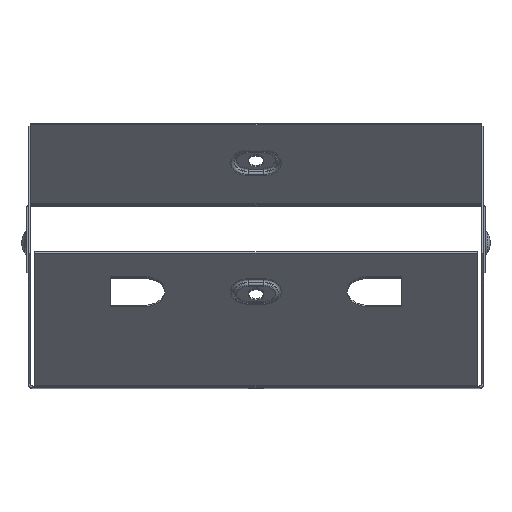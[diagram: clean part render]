
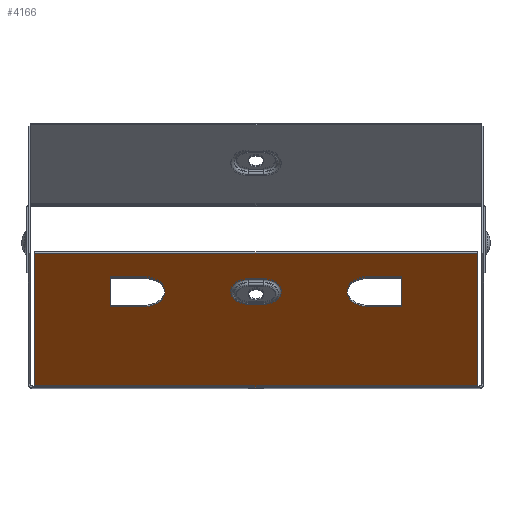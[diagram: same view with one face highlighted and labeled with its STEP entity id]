
A CAD part, top view. The second image highlights one B-rep face of the part: STEP entity #4166.
In plain terms, the highlighted planar face has unit normal (0, -0.707, 0.707).
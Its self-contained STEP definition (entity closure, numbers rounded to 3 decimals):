
#57 = EDGE_CURVE ( 'NONE', #10825, #4045, #3993, .T. ) ;
#126 = CARTESIAN_POINT ( 'NONE',  ( -97.299, -80.273, 96.527 ) ) ;
#152 = DIRECTION ( 'NONE',  ( 1., 0., 0. ) ) ;
#174 = AXIS2_PLACEMENT_3D ( 'NONE', #10945, #14334, #14380 ) ;
#208 = LINE ( 'NONE', #5179, #12270 ) ;
#489 = DIRECTION ( 'NONE',  ( -1., 0., 0. ) ) ;
#516 = EDGE_CURVE ( 'NONE', #4045, #14564, #5368, .T. ) ;
#530 = ORIENTED_EDGE ( 'NONE', *, *, #1739, .T. ) ;
#569 = VECTOR ( 'NONE', #7218, 1000. ) ;
#830 = DIRECTION ( 'NONE',  ( 0., 0.707, -0.707 ) ) ;
#1111 = AXIS2_PLACEMENT_3D ( 'NONE', #3456, #5631, #10220 ) ;
#1175 = VERTEX_POINT ( 'NONE', #12346 ) ;
#1195 = DIRECTION ( 'NONE',  ( -1., 0., 0. ) ) ;
#1207 = LINE ( 'NONE', #14212, #13769 ) ;
#1212 = LINE ( 'NONE', #3144, #4784 ) ;
#1455 = EDGE_CURVE ( 'NONE', #14028, #10825, #9761, .T. ) ;
#1508 = CARTESIAN_POINT ( 'NONE',  ( 64., -32.399, 144.401 ) ) ;
#1523 = EDGE_CURVE ( 'NONE', #14564, #14028, #6399, .T. ) ;
#1528 = EDGE_LOOP ( 'NONE', ( #11564, #9963, #12424, #10925 ) ) ;
#1588 = LINE ( 'NONE', #3879, #3552 ) ;
#1696 = CARTESIAN_POINT ( 'NONE',  ( 98.2, -21.792, 155.008 ) ) ;
#1719 = ORIENTED_EDGE ( 'NONE', *, *, #7287, .T. ) ;
#1739 = EDGE_CURVE ( 'NONE', #6923, #9455, #2478, .T. ) ;
#1797 = CARTESIAN_POINT ( 'NONE',  ( -49., -38.763, 138.037 ) ) ;
#1844 = EDGE_LOOP ( 'NONE', ( #1719, #3177, #6870, #6759 ) ) ;
#1905 = EDGE_CURVE ( 'NONE', #9087, #9399, #3378, .T. ) ;
#2032 = ORIENTED_EDGE ( 'NONE', *, *, #14685, .T. ) ;
#2120 = VECTOR ( 'NONE', #11023, 1000. ) ;
#2408 = CARTESIAN_POINT ( 'NONE',  ( -64., -32.399, 144.401 ) ) ;
#2478 = LINE ( 'NONE', #1696, #6042 ) ;
#3144 = CARTESIAN_POINT ( 'NONE',  ( 98.2, -80.273, 96.527 ) ) ;
#3174 = VERTEX_POINT ( 'NONE', #12741 ) ;
#3177 = ORIENTED_EDGE ( 'NONE', *, *, #9851, .T. ) ;
#3378 = CIRCLE ( 'NONE', #7493, 9. ) ;
#3456 = CARTESIAN_POINT ( 'NONE',  ( -3.5, -38.763, 138.037 ) ) ;
#3552 = VECTOR ( 'NONE', #12794, 1000. ) ;
#3627 = CARTESIAN_POINT ( 'NONE',  ( -49., -32.399, 144.401 ) ) ;
#3791 = EDGE_CURVE ( 'NONE', #9399, #14397, #1207, .T. ) ;
#3879 = CARTESIAN_POINT ( 'NONE',  ( -97.299, -80.8, 96. ) ) ;
#3942 = LINE ( 'NONE', #6573, #2120 ) ;
#3993 = LINE ( 'NONE', #9500, #569 ) ;
#4045 = VERTEX_POINT ( 'NONE', #13042 ) ;
#4158 = CARTESIAN_POINT ( 'NONE',  ( -97.299, -21.792, 155.008 ) ) ;
#4166 = ADVANCED_FACE ( 'NONE', ( #8674, #14301, #11646, #11310 ), #8739, .F. ) ;
#4345 = AXIS2_PLACEMENT_3D ( 'NONE', #1797, #9780, #6413 ) ;
#4416 = VERTEX_POINT ( 'NONE', #5160 ) ;
#4504 = VECTOR ( 'NONE', #152, 1000. ) ;
#4767 = DIRECTION ( 'NONE',  ( -1., 0., 0. ) ) ;
#4784 = VECTOR ( 'NONE', #8825, 1000. ) ;
#4850 = VECTOR ( 'NONE', #9421, 1000. ) ;
#5160 = CARTESIAN_POINT ( 'NONE',  ( -49., -45.126, 131.674 ) ) ;
#5179 = CARTESIAN_POINT ( 'NONE',  ( -49., -45.126, 131.674 ) ) ;
#5276 = CARTESIAN_POINT ( 'NONE',  ( 64., -32.399, 144.401 ) ) ;
#5368 = CIRCLE ( 'NONE', #12222, 7.598 ) ;
#5631 = DIRECTION ( 'NONE',  ( 0., 0.707, -0.707 ) ) ;
#5748 = CIRCLE ( 'NONE', #4345, 9. ) ;
#5958 = CARTESIAN_POINT ( 'NONE',  ( 3.5, -44.135, 132.665 ) ) ;
#6030 = CARTESIAN_POINT ( 'NONE',  ( -3.5, -33.39, 143.41 ) ) ;
#6042 = VECTOR ( 'NONE', #489, 1000. ) ;
#6259 = CARTESIAN_POINT ( 'NONE',  ( 49., -32.399, 144.401 ) ) ;
#6272 = DIRECTION ( 'NONE',  ( -1., 0., 0. ) ) ;
#6399 = LINE ( 'NONE', #6754, #12050 ) ;
#6413 = DIRECTION ( 'NONE',  ( 0., -0.707, -0.707 ) ) ;
#6444 = EDGE_CURVE ( 'NONE', #6999, #9087, #9020, .T. ) ;
#6471 = CARTESIAN_POINT ( 'NONE',  ( 97.299, -80.273, 96.527 ) ) ;
#6573 = CARTESIAN_POINT ( 'NONE',  ( -64., -32.399, 144.401 ) ) ;
#6754 = CARTESIAN_POINT ( 'NONE',  ( 3.5, -44.135, 132.665 ) ) ;
#6759 = ORIENTED_EDGE ( 'NONE', *, *, #10955, .T. ) ;
#6870 = ORIENTED_EDGE ( 'NONE', *, *, #10961, .T. ) ;
#6923 = VERTEX_POINT ( 'NONE', #13807 ) ;
#6999 = VERTEX_POINT ( 'NONE', #7362 ) ;
#7025 = CARTESIAN_POINT ( 'NONE',  ( 49., -45.126, 131.674 ) ) ;
#7218 = DIRECTION ( 'NONE',  ( 1., 0., 0. ) ) ;
#7248 = VECTOR ( 'NONE', #10798, 1000. ) ;
#7287 = EDGE_CURVE ( 'NONE', #1175, #10694, #3942, .T. ) ;
#7344 = DIRECTION ( 'NONE',  ( 0., 0.707, 0.707 ) ) ;
#7362 = CARTESIAN_POINT ( 'NONE',  ( 64., -45.126, 131.674 ) ) ;
#7493 = AXIS2_PLACEMENT_3D ( 'NONE', #8975, #830, #11038 ) ;
#8137 = LINE ( 'NONE', #5276, #7248 ) ;
#8147 = EDGE_CURVE ( 'NONE', #14397, #6999, #8137, .T. ) ;
#8587 = ORIENTED_EDGE ( 'NONE', *, *, #1455, .T. ) ;
#8674 = FACE_BOUND ( 'NONE', #1528, .T. ) ;
#8739 = PLANE ( 'NONE',  #174 ) ;
#8825 = DIRECTION ( 'NONE',  ( -1., 0., 0. ) ) ;
#8899 = EDGE_LOOP ( 'NONE', ( #13746, #14161, #2032, #530 ) ) ;
#8975 = CARTESIAN_POINT ( 'NONE',  ( 49., -38.763, 138.037 ) ) ;
#9020 = LINE ( 'NONE', #7025, #13407 ) ;
#9087 = VERTEX_POINT ( 'NONE', #13477 ) ;
#9399 = VERTEX_POINT ( 'NONE', #6259 ) ;
#9421 = DIRECTION ( 'NONE',  ( 0., 0.707, 0.707 ) ) ;
#9455 = VERTEX_POINT ( 'NONE', #4158 ) ;
#9500 = CARTESIAN_POINT ( 'NONE',  ( 3.5, -33.39, 143.41 ) ) ;
#9761 = CIRCLE ( 'NONE', #1111, 7.598 ) ;
#9780 = DIRECTION ( 'NONE',  ( 0., 0.707, -0.707 ) ) ;
#9851 = EDGE_CURVE ( 'NONE', #10694, #3174, #13504, .T. ) ;
#9963 = ORIENTED_EDGE ( 'NONE', *, *, #1905, .T. ) ;
#10220 = DIRECTION ( 'NONE',  ( 0., 0.707, 0.707 ) ) ;
#10228 = VERTEX_POINT ( 'NONE', #126 ) ;
#10639 = CARTESIAN_POINT ( 'NONE',  ( 97.299, -81.015, 95.785 ) ) ;
#10694 = VERTEX_POINT ( 'NONE', #2408 ) ;
#10798 = DIRECTION ( 'NONE',  ( 0., -0.707, -0.707 ) ) ;
#10825 = VERTEX_POINT ( 'NONE', #6030 ) ;
#10925 = ORIENTED_EDGE ( 'NONE', *, *, #8147, .T. ) ;
#10945 = CARTESIAN_POINT ( 'NONE',  ( 98.2, -80.8, 96. ) ) ;
#10955 = EDGE_CURVE ( 'NONE', #4416, #1175, #208, .T. ) ;
#10961 = EDGE_CURVE ( 'NONE', #3174, #4416, #5748, .T. ) ;
#11023 = DIRECTION ( 'NONE',  ( 0., 0.707, 0.707 ) ) ;
#11038 = DIRECTION ( 'NONE',  ( 0., 0.707, 0.707 ) ) ;
#11310 = FACE_OUTER_BOUND ( 'NONE', #8899, .T. ) ;
#11357 = ORIENTED_EDGE ( 'NONE', *, *, #516, .T. ) ;
#11564 = ORIENTED_EDGE ( 'NONE', *, *, #6444, .T. ) ;
#11646 = FACE_BOUND ( 'NONE', #12769, .T. ) ;
#11914 = LINE ( 'NONE', #10639, #4850 ) ;
#12050 = VECTOR ( 'NONE', #1195, 1000. ) ;
#12057 = ORIENTED_EDGE ( 'NONE', *, *, #57, .T. ) ;
#12208 = ORIENTED_EDGE ( 'NONE', *, *, #1523, .T. ) ;
#12222 = AXIS2_PLACEMENT_3D ( 'NONE', #14085, #13125, #7344 ) ;
#12270 = VECTOR ( 'NONE', #6272, 1000. ) ;
#12346 = CARTESIAN_POINT ( 'NONE',  ( -64., -45.126, 131.674 ) ) ;
#12424 = ORIENTED_EDGE ( 'NONE', *, *, #3791, .T. ) ;
#12741 = CARTESIAN_POINT ( 'NONE',  ( -49., -32.399, 144.401 ) ) ;
#12769 = EDGE_LOOP ( 'NONE', ( #12057, #11357, #12208, #8587 ) ) ;
#12794 = DIRECTION ( 'NONE',  ( 0., -0.707, -0.707 ) ) ;
#13042 = CARTESIAN_POINT ( 'NONE',  ( 3.5, -33.39, 143.41 ) ) ;
#13125 = DIRECTION ( 'NONE',  ( 0., 0.707, -0.707 ) ) ;
#13407 = VECTOR ( 'NONE', #4767, 1000. ) ;
#13477 = CARTESIAN_POINT ( 'NONE',  ( 49., -45.126, 131.674 ) ) ;
#13504 = LINE ( 'NONE', #3627, #4504 ) ;
#13746 = ORIENTED_EDGE ( 'NONE', *, *, #14325, .T. ) ;
#13769 = VECTOR ( 'NONE', #14254, 1000. ) ;
#13807 = CARTESIAN_POINT ( 'NONE',  ( 97.299, -21.792, 155.008 ) ) ;
#14028 = VERTEX_POINT ( 'NONE', #14520 ) ;
#14041 = EDGE_CURVE ( 'NONE', #14438, #10228, #1212, .T. ) ;
#14085 = CARTESIAN_POINT ( 'NONE',  ( 3.5, -38.763, 138.037 ) ) ;
#14161 = ORIENTED_EDGE ( 'NONE', *, *, #14041, .F. ) ;
#14212 = CARTESIAN_POINT ( 'NONE',  ( 49., -32.399, 144.401 ) ) ;
#14254 = DIRECTION ( 'NONE',  ( 1., 0., 0. ) ) ;
#14301 = FACE_BOUND ( 'NONE', #1844, .T. ) ;
#14325 = EDGE_CURVE ( 'NONE', #9455, #10228, #1588, .T. ) ;
#14334 = DIRECTION ( 'NONE',  ( 0., 0.707, -0.707 ) ) ;
#14380 = DIRECTION ( 'NONE',  ( 0., 0.707, 0.707 ) ) ;
#14397 = VERTEX_POINT ( 'NONE', #1508 ) ;
#14438 = VERTEX_POINT ( 'NONE', #6471 ) ;
#14520 = CARTESIAN_POINT ( 'NONE',  ( -3.5, -44.135, 132.665 ) ) ;
#14564 = VERTEX_POINT ( 'NONE', #5958 ) ;
#14685 = EDGE_CURVE ( 'NONE', #14438, #6923, #11914, .T. ) ;
